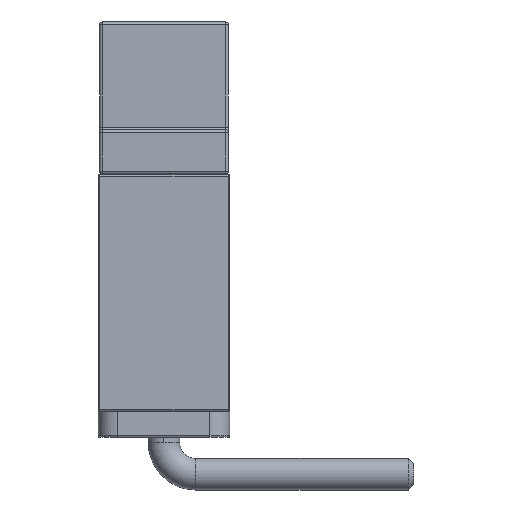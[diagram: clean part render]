
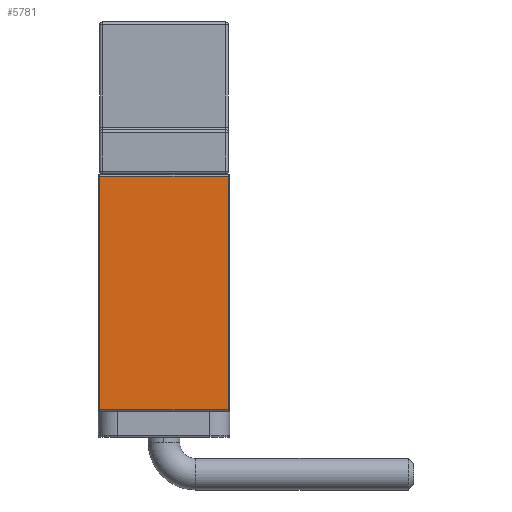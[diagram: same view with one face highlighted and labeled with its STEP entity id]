
A CAD part, left-side view. The second image highlights one B-rep face of the part: STEP entity #5781.
In plain terms, the highlighted planar face has unit normal (-1, 0, 0).
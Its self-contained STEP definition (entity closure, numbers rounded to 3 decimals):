
#93 = CARTESIAN_POINT ( 'NONE',  ( -5., 1.25, -0.03 ) ) ;
#172 = CARTESIAN_POINT ( 'NONE',  ( -5., -1.25, -4.47 ) ) ;
#198 = DIRECTION ( 'NONE',  ( 0., 0., -1. ) ) ;
#741 = VERTEX_POINT ( 'NONE', #2246 ) ;
#840 = VECTOR ( 'NONE', #2332, 1000. ) ;
#881 = CARTESIAN_POINT ( 'NONE',  ( -5., 1.22, -0.03 ) ) ;
#1367 = AXIS2_PLACEMENT_3D ( 'NONE', #3521, #1869, #1371 ) ;
#1371 = DIRECTION ( 'NONE',  ( 0., -1., 0. ) ) ;
#1379 = VECTOR ( 'NONE', #2727, 1000. ) ;
#1543 = ORIENTED_EDGE ( 'NONE', *, *, #3801, .T. ) ;
#1704 = CARTESIAN_POINT ( 'NONE',  ( -5., 1.22, -4.5 ) ) ;
#1725 = EDGE_LOOP ( 'NONE', ( #1543, #6818, #3692, #2076 ) ) ;
#1869 = DIRECTION ( 'NONE',  ( -1., 0., 0. ) ) ;
#2073 = LINE ( 'NONE', #1704, #4027 ) ;
#2076 = ORIENTED_EDGE ( 'NONE', *, *, #6045, .T. ) ;
#2094 = LINE ( 'NONE', #172, #840 ) ;
#2101 = CARTESIAN_POINT ( 'NONE',  ( -5., -1.22, -4.5 ) ) ;
#2246 = CARTESIAN_POINT ( 'NONE',  ( -5., -1.22, -4.47 ) ) ;
#2332 = DIRECTION ( 'NONE',  ( 0., -1., 0. ) ) ;
#2727 = DIRECTION ( 'NONE',  ( 0., 1., 0. ) ) ;
#2864 = VERTEX_POINT ( 'NONE', #881 ) ;
#3008 = LINE ( 'NONE', #2101, #3948 ) ;
#3204 = DIRECTION ( 'NONE',  ( 0., 0., 1. ) ) ;
#3376 = VERTEX_POINT ( 'NONE', #5783 ) ;
#3521 = CARTESIAN_POINT ( 'NONE',  ( -5., 1.25, -4.5 ) ) ;
#3692 = ORIENTED_EDGE ( 'NONE', *, *, #5320, .T. ) ;
#3801 = EDGE_CURVE ( 'NONE', #3376, #2864, #6017, .T. ) ;
#3824 = VERTEX_POINT ( 'NONE', #4395 ) ;
#3948 = VECTOR ( 'NONE', #3204, 1000. ) ;
#4027 = VECTOR ( 'NONE', #198, 1000. ) ;
#4123 = PLANE ( 'NONE',  #1367 ) ;
#4395 = CARTESIAN_POINT ( 'NONE',  ( -5., 1.22, -4.47 ) ) ;
#4464 = FACE_OUTER_BOUND ( 'NONE', #1725, .T. ) ;
#5320 = EDGE_CURVE ( 'NONE', #3824, #741, #2094, .T. ) ;
#5781 = ADVANCED_FACE ( 'NONE', ( #4464 ), #4123, .T. ) ;
#5783 = CARTESIAN_POINT ( 'NONE',  ( -5., -1.22, -0.03 ) ) ;
#6017 = LINE ( 'NONE', #93, #1379 ) ;
#6045 = EDGE_CURVE ( 'NONE', #741, #3376, #3008, .T. ) ;
#6475 = EDGE_CURVE ( 'NONE', #2864, #3824, #2073, .T. ) ;
#6818 = ORIENTED_EDGE ( 'NONE', *, *, #6475, .T. ) ;
